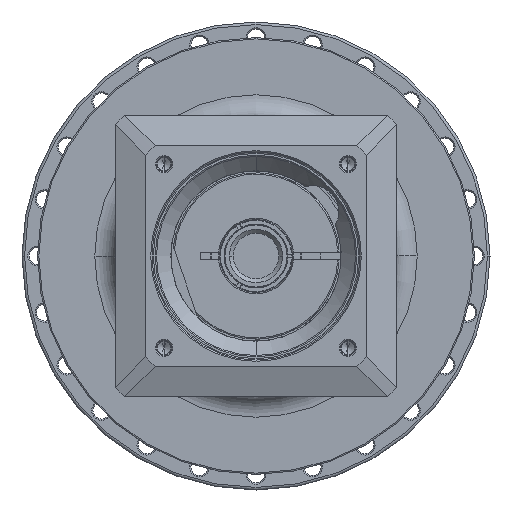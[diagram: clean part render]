
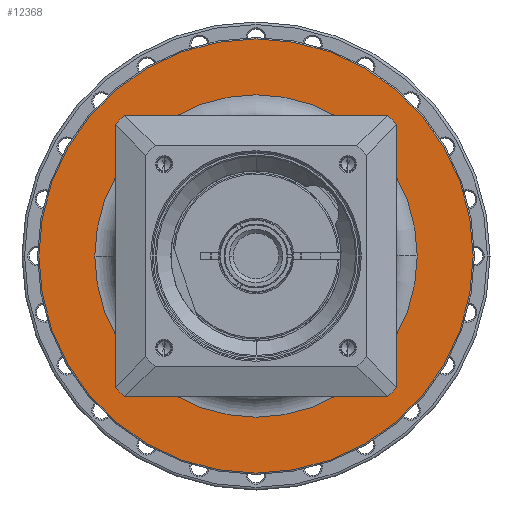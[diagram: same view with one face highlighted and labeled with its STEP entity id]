
A CAD part, left-side view. The second image highlights one B-rep face of the part: STEP entity #12368.
In plain terms, the highlighted planar face has unit normal (-1, 0, 0) as drawn and (1, 0, 0) by its records, which use the part's own axes.
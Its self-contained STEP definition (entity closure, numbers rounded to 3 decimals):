
#11847=CARTESIAN_POINT('',(-19.5,0.,0.));
#11848=DIRECTION('',(-1.,0.,0.));
#11849=DIRECTION('',(0.,-1.,0.));
#11850=AXIS2_PLACEMENT_3D('',#11847,#11848,#11849);
#11852=CARTESIAN_POINT('',(-19.5,0.,0.));
#11853=DIRECTION('',(-1.,0.,0.));
#11854=DIRECTION('',(0.,1.,0.));
#11855=AXIS2_PLACEMENT_3D('',#11852,#11853,#11854);
#11857=CARTESIAN_POINT('',(-19.5,0.,0.));
#11858=DIRECTION('',(-1.,0.,0.));
#11859=DIRECTION('',(0.,-1.,0.));
#11860=AXIS2_PLACEMENT_3D('',#11857,#11858,#11859);
#11862=CARTESIAN_POINT('',(-19.5,0.,0.));
#11863=DIRECTION('',(-1.,0.,0.));
#11864=DIRECTION('',(0.,1.,0.));
#11865=AXIS2_PLACEMENT_3D('',#11862,#11863,#11864);
#11931=CARTESIAN_POINT('',(-19.5,-83.5,0.));
#11932=CARTESIAN_POINT('',(-19.5,83.5,0.));
#11933=VERTEX_POINT('',#11931);
#11934=VERTEX_POINT('',#11932);
#11955=CARTESIAN_POINT('',(-19.5,-62.,0.));
#11956=CARTESIAN_POINT('',(-19.5,62.,0.));
#11957=VERTEX_POINT('',#11955);
#11958=VERTEX_POINT('',#11956);
#12353=CARTESIAN_POINT('',(-19.5,0.,0.));
#12354=DIRECTION('',(1.,0.,0.));
#12355=DIRECTION('',(0.,-1.,0.));
#12356=AXIS2_PLACEMENT_3D('',#12353,#12354,#12355);
#12357=PLANE('',#12356);
#12358=ORIENTED_EDGE('',*,*,#12294,.T.);
#12359=ORIENTED_EDGE('',*,*,#12309,.T.);
#12360=EDGE_LOOP('',(#12358,#12359));
#12361=FACE_OUTER_BOUND('',#12360,.F.);
#12363=ORIENTED_EDGE('',*,*,#12362,.F.);
#12365=ORIENTED_EDGE('',*,*,#12364,.F.);
#12366=EDGE_LOOP('',(#12363,#12365));
#12367=FACE_BOUND('',#12366,.F.);
#12368=ADVANCED_FACE('',(#12361,#12367),#12357,.T.);
#11851=CIRCLE('',#11850,62.);
#11856=CIRCLE('',#11855,62.);
#11861=CIRCLE('',#11860,83.5);
#11866=CIRCLE('',#11865,83.5);
#12294=EDGE_CURVE('',#11933,#11934,#11861,.T.);
#12309=EDGE_CURVE('',#11934,#11933,#11866,.T.);
#12362=EDGE_CURVE('',#11957,#11958,#11851,.T.);
#12364=EDGE_CURVE('',#11958,#11957,#11856,.T.);
